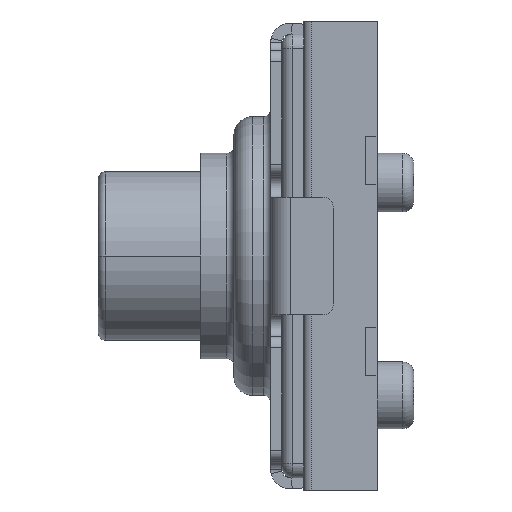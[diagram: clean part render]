
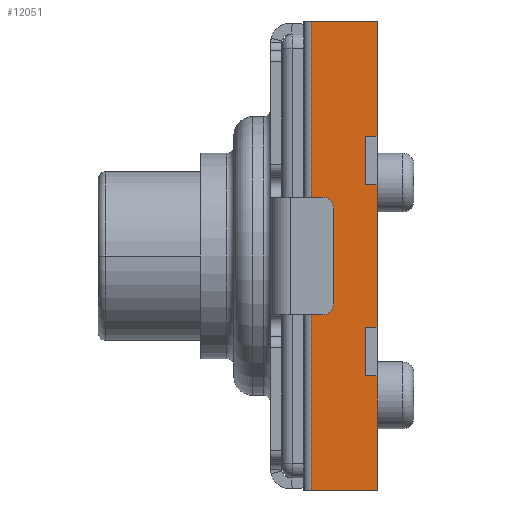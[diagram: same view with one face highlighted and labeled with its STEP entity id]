
A CAD part, left-side view. The second image highlights one B-rep face of the part: STEP entity #12051.
In plain terms, the highlighted planar face has unit normal (-1, 0, 0).
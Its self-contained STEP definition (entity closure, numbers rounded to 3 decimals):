
#413 = CARTESIAN_POINT ( 'NONE',  ( -3., 0.9, -3.19 ) ) ;
#519 = DIRECTION ( 'NONE',  ( 0., 1., 0. ) ) ;
#529 = LINE ( 'NONE', #413, #4396 ) ;
#1022 = CARTESIAN_POINT ( 'NONE',  ( -3., 0., 3.19 ) ) ;
#1767 = VERTEX_POINT ( 'NONE', #22074 ) ;
#2711 = EDGE_CURVE ( 'NONE', #20945, #2926, #4753, .T. ) ;
#2926 = VERTEX_POINT ( 'NONE', #19715 ) ;
#4213 = CARTESIAN_POINT ( 'NONE',  ( -3., 1., 3.19 ) ) ;
#4297 = LINE ( 'NONE', #15990, #6133 ) ;
#4396 = VECTOR ( 'NONE', #20362, 1000. ) ;
#4753 = LINE ( 'NONE', #14350, #12408 ) ;
#4996 = LINE ( 'NONE', #1022, #10383 ) ;
#5116 = DIRECTION ( 'NONE',  ( 0., 0., 1. ) ) ;
#6133 = VECTOR ( 'NONE', #11418, 1000. ) ;
#7372 = EDGE_CURVE ( 'NONE', #1767, #13533, #4297, .T. ) ;
#8364 = CARTESIAN_POINT ( 'NONE',  ( -3., 0., -3.19 ) ) ;
#8827 = DIRECTION ( 'NONE',  ( 0., -1., 0. ) ) ;
#10383 = VECTOR ( 'NONE', #5116, 1000. ) ;
#11418 = DIRECTION ( 'NONE',  ( 0., -1., 0. ) ) ;
#12051 = ADVANCED_FACE ( 'NONE', ( #16814 ), #20493, .F. ) ;
#12227 = ORIENTED_EDGE ( 'NONE', *, *, #25922, .T. ) ;
#12408 = VECTOR ( 'NONE', #8827, 1000. ) ;
#12848 = AXIS2_PLACEMENT_3D ( 'NONE', #4213, #16685, #519 ) ;
#13533 = VERTEX_POINT ( 'NONE', #8364 ) ;
#13559 = ORIENTED_EDGE ( 'NONE', *, *, #7372, .T. ) ;
#13926 = CARTESIAN_POINT ( 'NONE',  ( -3., 0.9, 3.19 ) ) ;
#14350 = CARTESIAN_POINT ( 'NONE',  ( -3., 1., 3.19 ) ) ;
#15990 = CARTESIAN_POINT ( 'NONE',  ( -3., 1., -3.19 ) ) ;
#16685 = DIRECTION ( 'NONE',  ( 1., 0., 0. ) ) ;
#16814 = FACE_OUTER_BOUND ( 'NONE', #24651, .T. ) ;
#17657 = ORIENTED_EDGE ( 'NONE', *, *, #20998, .T. ) ;
#19715 = CARTESIAN_POINT ( 'NONE',  ( -3., 0., 3.19 ) ) ;
#20362 = DIRECTION ( 'NONE',  ( 0., 0., -1. ) ) ;
#20493 = PLANE ( 'NONE',  #12848 ) ;
#20945 = VERTEX_POINT ( 'NONE', #13926 ) ;
#20998 = EDGE_CURVE ( 'NONE', #20945, #1767, #529, .T. ) ;
#22074 = CARTESIAN_POINT ( 'NONE',  ( -3., 0.9, -3.19 ) ) ;
#22512 = ORIENTED_EDGE ( 'NONE', *, *, #2711, .F. ) ;
#24651 = EDGE_LOOP ( 'NONE', ( #22512, #17657, #13559, #12227 ) ) ;
#25922 = EDGE_CURVE ( 'NONE', #13533, #2926, #4996, .T. ) ;
